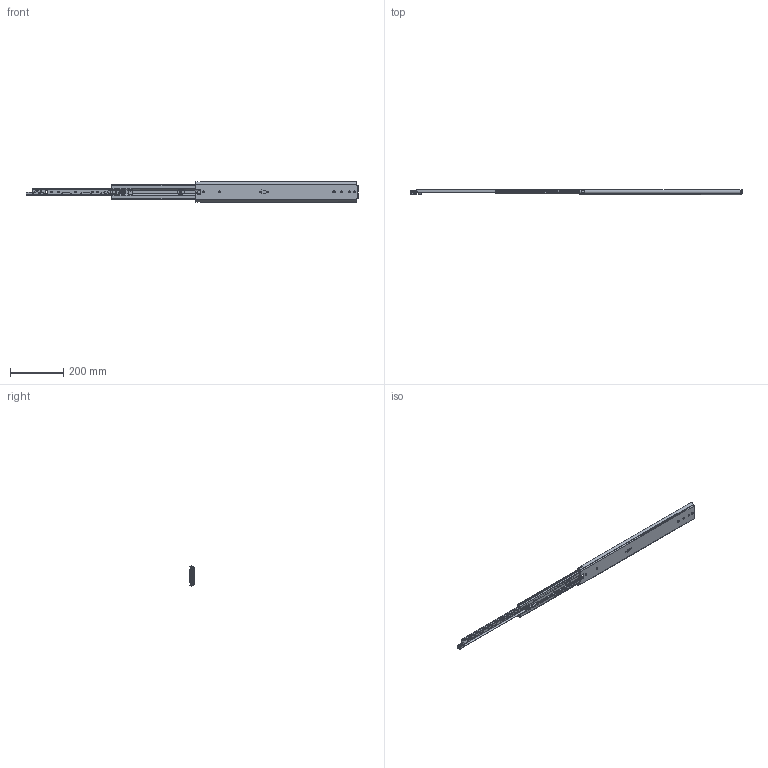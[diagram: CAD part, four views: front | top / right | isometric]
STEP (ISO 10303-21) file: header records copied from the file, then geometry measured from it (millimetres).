
FILE_DESCRIPTION((''),'2;1');
FILE_NAME('DCL23077619-609-OPEN_ASM_ASM','2023-05-10T',('jishu015'),(''),'PRO/ENGINEER BY PARAMETRIC TECHNOLOGY CORPORATION, 2010280','PRO/ENGINEER BY PARAMETRIC TECHNOLOGY CORPORATION, 2010280','');
FILE_SCHEMA(('CONFIG_CONTROL_DESIGN'));
Products named in the file (32): KP-76-04WAIKE-1816____2; 1076-WAIKEZIDANJIAO16____1; WAIK16____ASM_1_ASM; 1076XIAOZHUTIAO-22516____2; 16____1; 1076XIAOZHUTIAO-17516____ASM_2_ASM; KP-76-04ZHONGGUI1816____2; 76CHANGGUIZHONGGUIJIAO16____1; 3X6WODIN16____1; ZHONGGUIBAIKOU16____1; PJ-76-30___1; PJ-76-03___1; 76-XIAOZHUJIA-11___2; GANGZHU-XIAO___1; ZHUJIA-XIAO___ASM_2_ASM; ZHONGGUI6____ASM_2_ASM; KP-76-04NEIGUI1816____2; PJ-76-31___1; DAOGPIAN16____2; MANIFOLD_SOLID_BREP_58957; MANIFOLD_SOLID_BREP_59398; 1053-3SBANJ01___1_ASM; JIAO-11___1; 76XINSUOKOU___1; PJ-338___1; PJ-356___1; PJ-357___1; PJ-336___1; M4X4___1; NEIGUI16____ASM_2_ASM; DG-76-3S-24ZUO_ASM_2_ASM; DCL23077619-609-OPEN_ASM_ASM
Assembly tree (61 placements, depth 5):
  DCL23077619-609-OPEN_ASM_ASM
    DG-76-3S-24ZUO_ASM_2_ASM
      WAIK16____ASM_1_ASM
        KP-76-04WAIKE-1816____2
        1076-WAIKEZIDANJIAO16____1  x2
      1076XIAOZHUTIAO-17516____ASM_2_ASM  x2
        1076XIAOZHUTIAO-22516____2
        16____1
      ZHONGGUI6____ASM_2_ASM
        KP-76-04ZHONGGUI1816____2
        76CHANGGUIZHONGGUIJIAO16____1
        3X6WODIN16____1
        ZHONGGUIBAIKOU16____1
        PJ-76-30___1
        PJ-76-03___1
        ZHUJIA-XIAO___ASM_2_ASM
          76-XIAOZHUJIA-11___2
          GANGZHU-XIAO___1  x20
      NEIGUI16____ASM_2_ASM
        KP-76-04NEIGUI1816____2
        PJ-76-31___1
        DAOGPIAN16____2
        1053-3SBANJ01___1_ASM
          MANIFOLD_SOLID_BREP_58957
          MANIFOLD_SOLID_BREP_59398
        JIAO-11___1
        76XINSUOKOU___1
        PJ-338___1
        PJ-356___1
        PJ-357___1
        PJ-336___1
        M4X4___1
Bounding box: 1245.12 x 20.7 x 75.29 mm (x, y, z)
Volume: 398911 mm3; surface area: 384174.7 mm2
Topology: 64 solids, 64 shells, 2063 faces, 6461 edges, 4253 vertices
Faces by surface type: plane 876, cylinder 763, sphere 147, bspline 129, torus 96, cone 28, extrusion 24
Entity records: 75157 total; most frequent: CARTESIAN_POINT 24489, ORIENTED_EDGE 11298, DIRECTION 9878, EDGE_CURVE 5649, VERTEX_POINT 3796, AXIS2_PLACEMENT_3D 3574, VECTOR 2730, LINE 2706
